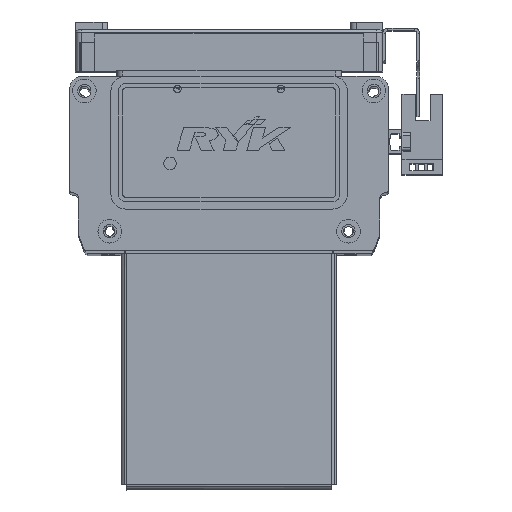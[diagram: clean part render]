
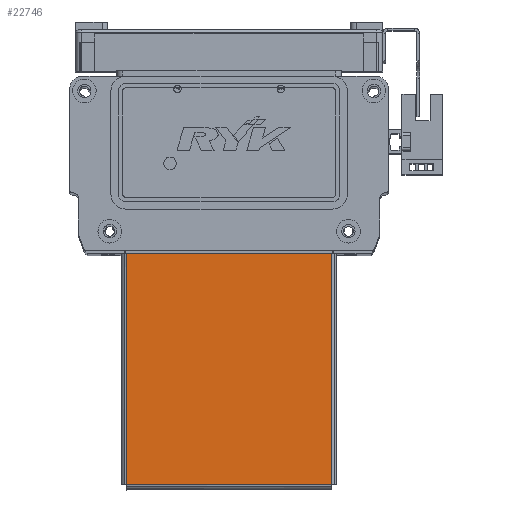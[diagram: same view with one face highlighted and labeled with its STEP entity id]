
A CAD part, top view. The second image highlights one B-rep face of the part: STEP entity #22746.
In plain terms, the highlighted planar face has unit normal (0, 0, 1) as drawn and (0, 1, 0) by its records, which use the part's own axes.
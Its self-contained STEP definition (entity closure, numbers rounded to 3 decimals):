
#4797 = EDGE_CURVE ( 'NONE', #14342, #14299, #22620, .T. ) ;
#4819 = EDGE_CURVE ( 'NONE', #14367, #14366, #22616, .T. ) ;
#4846 = EDGE_CURVE ( 'NONE', #14366, #14342, #22657, .T. ) ;
#4948 = EDGE_CURVE ( 'NONE', #14299, #14367, #29237, .T. ) ;
#14299 = VERTEX_POINT ( 'NONE', #36759 ) ;
#14342 = VERTEX_POINT ( 'NONE', #36817 ) ;
#14366 = VERTEX_POINT ( 'NONE', #36787 ) ;
#14367 = VERTEX_POINT ( 'NONE', #36804 ) ;
#22558 = VECTOR ( 'NONE', #45899, 1000. ) ;
#22596 = VECTOR ( 'NONE', #45875, 1000. ) ;
#22616 = LINE ( 'NONE', #45934, #22558 ) ;
#22620 = LINE ( 'NONE', #45874, #22596 ) ;
#22636 = VECTOR ( 'NONE', #45979, 1000. ) ;
#22657 = LINE ( 'NONE', #46018, #22636 ) ;
#22746 = ADVANCED_FACE ( 'NONE', ( #33244 ), #56644, .T. ) ;
#24303 = AXIS2_PLACEMENT_3D ( 'NONE', #56633, #56641, #56653 ) ;
#29226 = VECTOR ( 'NONE', #41992, 1000. ) ;
#29237 = LINE ( 'NONE', #42002, #29226 ) ;
#33244 = FACE_OUTER_BOUND ( 'NONE', #53137, .T. ) ;
#36759 = CARTESIAN_POINT ( 'NONE',  ( -34.763, 0., -39.5 ) ) ;
#36787 = CARTESIAN_POINT ( 'NONE',  ( 34.763, 0., 38.763 ) ) ;
#36804 = CARTESIAN_POINT ( 'NONE',  ( -34.763, 0., 38.763 ) ) ;
#36817 = CARTESIAN_POINT ( 'NONE',  ( 34.763, 0., -39.5 ) ) ;
#41992 = DIRECTION ( 'NONE',  ( 0., 0., 1. ) ) ;
#42002 = CARTESIAN_POINT ( 'NONE',  ( -34.763, 0., -39.5 ) ) ;
#45874 = CARTESIAN_POINT ( 'NONE',  ( -35.5, 0., -39.5 ) ) ;
#45875 = DIRECTION ( 'NONE',  ( -1., 0., 0. ) ) ;
#45899 = DIRECTION ( 'NONE',  ( 1., 0., 0. ) ) ;
#45934 = CARTESIAN_POINT ( 'NONE',  ( -34.793, 0., 38.763 ) ) ;
#45979 = DIRECTION ( 'NONE',  ( 0., 0., -1. ) ) ;
#46018 = CARTESIAN_POINT ( 'NONE',  ( 34.763, 0., 38.793 ) ) ;
#53137 = EDGE_LOOP ( 'NONE', ( #54102, #54096, #54091, #54076 ) ) ;
#54076 = ORIENTED_EDGE ( 'NONE', *, *, #4797, .T. ) ;
#54091 = ORIENTED_EDGE ( 'NONE', *, *, #4846, .T. ) ;
#54096 = ORIENTED_EDGE ( 'NONE', *, *, #4819, .T. ) ;
#54102 = ORIENTED_EDGE ( 'NONE', *, *, #4948, .T. ) ;
#56633 = CARTESIAN_POINT ( 'NONE',  ( 0., 0., 0. ) ) ;
#56641 = DIRECTION ( 'NONE',  ( 0., 1., 0. ) ) ;
#56644 = PLANE ( 'NONE',  #24303 ) ;
#56653 = DIRECTION ( 'NONE',  ( 0., 0., 1. ) ) ;
